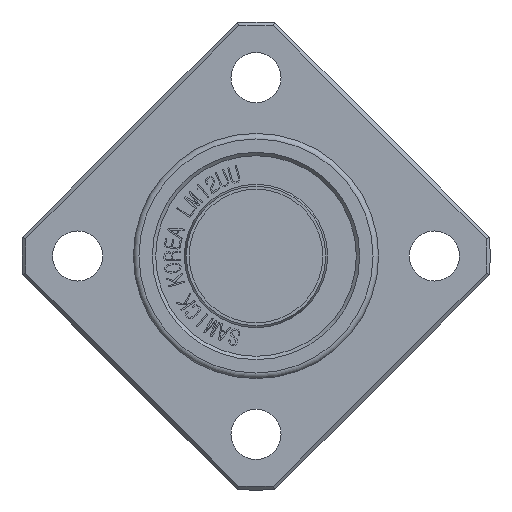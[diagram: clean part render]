
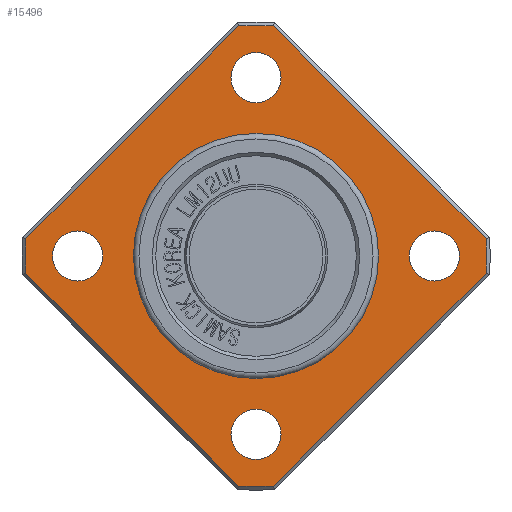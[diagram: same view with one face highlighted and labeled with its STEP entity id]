
A CAD part, front view. The second image highlights one B-rep face of the part: STEP entity #15496.
In plain terms, the highlighted planar face has unit normal (0, -1, 0).
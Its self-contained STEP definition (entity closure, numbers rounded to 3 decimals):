
#2170=FACE_BOUND('',#3187,.T.);
#2171=FACE_BOUND('',#3188,.T.);
#2172=FACE_BOUND('',#3189,.T.);
#2173=FACE_BOUND('',#3190,.T.);
#2174=FACE_BOUND('',#3191,.T.);
#2234=CIRCLE('',#16375,20.7);
#2235=CIRCLE('',#16376,20.7);
#2236=CIRCLE('',#16377,20.7);
#2237=CIRCLE('',#16378,20.7);
#2238=CIRCLE('',#16379,2.25);
#2239=CIRCLE('',#16380,2.25);
#2240=CIRCLE('',#16381,2.25);
#2241=CIRCLE('',#16382,2.25);
#2242=CIRCLE('',#16383,11.);
#2243=CIRCLE('',#16384,11.);
#2330=FACE_OUTER_BOUND('',#3186,.T.);
#3186=EDGE_LOOP('',(#10448,#10449,#10450,#10451,#10452,#10453,#10454,#10455));
#3187=EDGE_LOOP('',(#10456));
#3188=EDGE_LOOP('',(#10457));
#3189=EDGE_LOOP('',(#10458));
#3190=EDGE_LOOP('',(#10459));
#3191=EDGE_LOOP('',(#10460,#10461));
#4105=LINE('',#18628,#5255);
#4106=LINE('',#18636,#5256);
#4107=LINE('',#18640,#5257);
#4108=LINE('',#18644,#5258);
#5255=VECTOR('',#16745,10.);
#5256=VECTOR('',#16750,10.);
#5257=VECTOR('',#16753,10.);
#5258=VECTOR('',#16756,10.);
#6424=VERTEX_POINT('',#18623);
#6425=VERTEX_POINT('',#18627);
#6426=VERTEX_POINT('',#18633);
#6427=VERTEX_POINT('',#18635);
#6428=VERTEX_POINT('',#18637);
#6429=VERTEX_POINT('',#18639);
#6430=VERTEX_POINT('',#18641);
#6431=VERTEX_POINT('',#18643);
#6432=VERTEX_POINT('',#18646);
#6433=VERTEX_POINT('',#18648);
#6434=VERTEX_POINT('',#18650);
#6435=VERTEX_POINT('',#18652);
#6436=VERTEX_POINT('',#18654);
#6437=VERTEX_POINT('',#18655);
#8035=EDGE_CURVE('',#6424,#6425,#4105,.T.);
#8037=EDGE_CURVE('',#6424,#6426,#2234,.T.);
#8038=EDGE_CURVE('',#6427,#6426,#4106,.T.);
#8039=EDGE_CURVE('',#6427,#6428,#2235,.T.);
#8040=EDGE_CURVE('',#6429,#6428,#4107,.T.);
#8041=EDGE_CURVE('',#6429,#6430,#2236,.T.);
#8042=EDGE_CURVE('',#6431,#6430,#4108,.T.);
#8043=EDGE_CURVE('',#6431,#6425,#2237,.T.);
#8044=EDGE_CURVE('',#6432,#6432,#2238,.T.);
#8045=EDGE_CURVE('',#6433,#6433,#2239,.T.);
#8046=EDGE_CURVE('',#6434,#6434,#2240,.T.);
#8047=EDGE_CURVE('',#6435,#6435,#2241,.T.);
#8048=EDGE_CURVE('',#6436,#6437,#2242,.T.);
#8049=EDGE_CURVE('',#6437,#6436,#2243,.T.);
#10448=ORIENTED_EDGE('',*,*,#8035,.F.);
#10449=ORIENTED_EDGE('',*,*,#8037,.T.);
#10450=ORIENTED_EDGE('',*,*,#8038,.F.);
#10451=ORIENTED_EDGE('',*,*,#8039,.T.);
#10452=ORIENTED_EDGE('',*,*,#8040,.F.);
#10453=ORIENTED_EDGE('',*,*,#8041,.T.);
#10454=ORIENTED_EDGE('',*,*,#8042,.F.);
#10455=ORIENTED_EDGE('',*,*,#8043,.T.);
#10456=ORIENTED_EDGE('',*,*,#8044,.T.);
#10457=ORIENTED_EDGE('',*,*,#8045,.T.);
#10458=ORIENTED_EDGE('',*,*,#8046,.T.);
#10459=ORIENTED_EDGE('',*,*,#8047,.T.);
#10460=ORIENTED_EDGE('',*,*,#8048,.F.);
#10461=ORIENTED_EDGE('',*,*,#8049,.F.);
#15251=PLANE('',#16374);
#15496=ADVANCED_FACE('',(#2330,#2170,#2171,#2172,#2173,#2174),#15251,.T.);
#16374=AXIS2_PLACEMENT_3D('',#18632,#16746,#16747);
#16375=AXIS2_PLACEMENT_3D('',#18634,#16748,#16749);
#16376=AXIS2_PLACEMENT_3D('',#18638,#16751,#16752);
#16377=AXIS2_PLACEMENT_3D('',#18642,#16754,#16755);
#16378=AXIS2_PLACEMENT_3D('',#18645,#16757,#16758);
#16379=AXIS2_PLACEMENT_3D('',#18647,#16759,#16760);
#16380=AXIS2_PLACEMENT_3D('',#18649,#16761,#16762);
#16381=AXIS2_PLACEMENT_3D('',#18651,#16763,#16764);
#16382=AXIS2_PLACEMENT_3D('',#18653,#16765,#16766);
#16383=AXIS2_PLACEMENT_3D('',#18656,#16767,#16768);
#16384=AXIS2_PLACEMENT_3D('',#18657,#16769,#16770);
#16745=DIRECTION('',(0.707,0.,0.707));
#16746=DIRECTION('center_axis',(0.,-1.,0.));
#16747=DIRECTION('ref_axis',(0.,0.,-1.));
#16748=DIRECTION('center_axis',(0.,-1.,0.));
#16749=DIRECTION('ref_axis',(1.,0.,0.));
#16750=DIRECTION('',(-0.707,0.,0.707));
#16751=DIRECTION('center_axis',(0.,-1.,0.));
#16752=DIRECTION('ref_axis',(1.,0.,0.));
#16753=DIRECTION('',(-0.707,0.,-0.707));
#16754=DIRECTION('center_axis',(0.,-1.,0.));
#16755=DIRECTION('ref_axis',(1.,0.,0.));
#16756=DIRECTION('',(0.707,0.,-0.707));
#16757=DIRECTION('center_axis',(0.,-1.,0.));
#16758=DIRECTION('ref_axis',(1.,0.,0.));
#16759=DIRECTION('center_axis',(0.,1.,0.));
#16760=DIRECTION('ref_axis',(0.,0.,
1.));
#16761=DIRECTION('center_axis',(0.,1.,0.));
#16762=DIRECTION('ref_axis',(-1.,0.,0.));
#16763=DIRECTION('center_axis',(0.,1.,0.));
#16764=DIRECTION('ref_axis',(0.,0.,
-1.));
#16765=DIRECTION('center_axis',(0.,1.,0.));
#16766=DIRECTION('ref_axis',(1.,0.,0.));
#16767=DIRECTION('center_axis',(0.,-1.,0.));
#16768=DIRECTION('ref_axis',(1.,0.,0.));
#16769=DIRECTION('center_axis',(0.,-1.,0.));
#16770=DIRECTION('ref_axis',(1.,0.,0.));
#18623=CARTESIAN_POINT('',(-20.641,-3.,1.562));
#18627=CARTESIAN_POINT('',(-1.562,-3.,20.641));
#18628=CARTESIAN_POINT('',(-3.543,-3.,18.66));
#18632=CARTESIAN_POINT('Origin',(11.,-3.,0.));
#18633=CARTESIAN_POINT('',(-20.641,-3.,-1.562));
#18634=CARTESIAN_POINT('Origin',(0.,-3.,0.));
#18635=CARTESIAN_POINT('',(-1.562,-3.,-20.641));
#18636=CARTESIAN_POINT('',(-13.16,-3.,-9.043));
#18637=CARTESIAN_POINT('',(1.562,-3.,-20.641));
#18638=CARTESIAN_POINT('Origin',(0.,-3.,0.));
#18639=CARTESIAN_POINT('',(20.641,-3.,-1.562));
#18640=CARTESIAN_POINT('',(9.043,-3.,-13.16));
#18641=CARTESIAN_POINT('',(20.641,-3.,1.562));
#18642=CARTESIAN_POINT('Origin',(0.,-3.,0.));
#18643=CARTESIAN_POINT('',(1.562,-3.,20.641));
#18644=CARTESIAN_POINT('',(18.66,-3.,3.543));
#18645=CARTESIAN_POINT('Origin',(0.,-3.,0.));
#18646=CARTESIAN_POINT('',(0.,-3.,13.75));
#18647=CARTESIAN_POINT('Origin',(0.,-3.,16.));
#18648=CARTESIAN_POINT('',(-13.75,-3.,0.));
#18649=CARTESIAN_POINT('Origin',(-16.,-3.,0.));
#18650=CARTESIAN_POINT('',(0.,-3.,-13.75));
#18651=CARTESIAN_POINT('Origin',(0.,-3.,-16.));
#18652=CARTESIAN_POINT('',(13.75,-3.,0.));
#18653=CARTESIAN_POINT('Origin',(16.,-3.,0.));
#18654=CARTESIAN_POINT('',(11.,-3.,0.));
#18655=CARTESIAN_POINT('',(-11.,-3.,0.));
#18656=CARTESIAN_POINT('Origin',(0.,-3.,0.));
#18657=CARTESIAN_POINT('Origin',(0.,-3.,0.));
